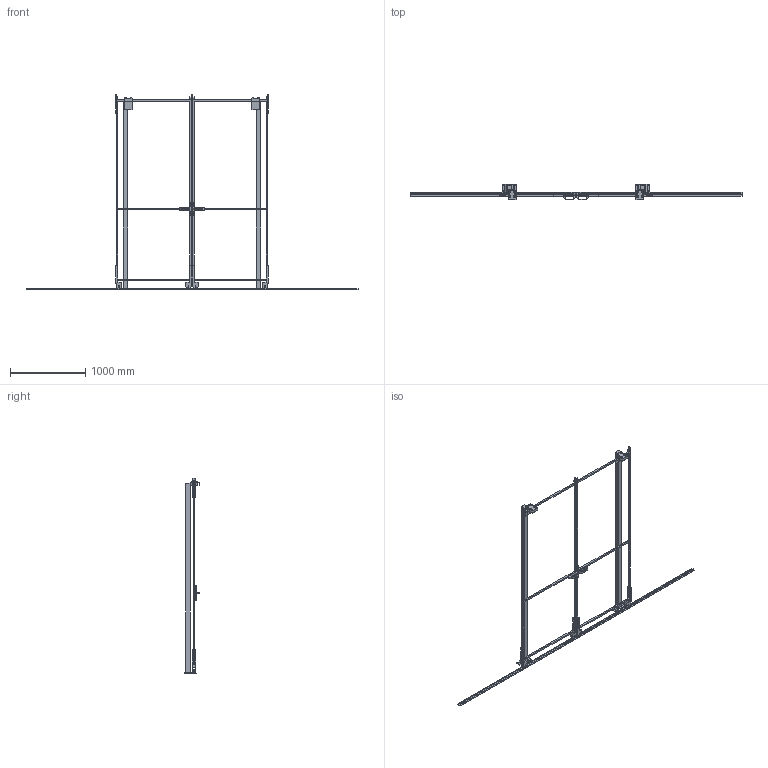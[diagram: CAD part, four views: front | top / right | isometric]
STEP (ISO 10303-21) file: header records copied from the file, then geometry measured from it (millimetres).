
FILE_DESCRIPTION(/* description */ (''),/* implementation_level */ '2;1');
FILE_NAME(/* name */ 'C:\SafeGuarding\ELABORATI\Drawing4_2025-05-14-13-58-56.stp',/* time_stamp */ '2025-05-14T13:58:58+02:00',/* author */ ('admin'),/* organization */ (''),/* preprocessor_version */ 'ST-DEVELOPER v18.1',/* originating_system */ 'AutoCAD Mechanical',/* authorisation */ '');
FILE_SCHEMA (('AUTOMOTIVE_DESIGN { 1 0 10303 214 3 1 1 }'));
Length unit declared in the file: millimetre
Products named in the file (3): Product; VFPA.REPE2010002400; P_VFMA.V260SDU.2520
Assembly tree (4 placements, depth 2):
  Product
    VFPA.REPE2010002400  x2
    P_VFMA.V260SDU.2520  x2
Bounding box: 4400 x 211.4 x 2590 mm (x, y, z)
Volume: 27286517.8 mm3; surface area: 3868071.8 mm2
Topology: 44 solids, 66 shells, 472 faces, 1514 edges, 1388 vertices
Faces by surface type: plane 408, cylinder 56, cone 8
Full cylindrical faces by diameter (mm): 9 x8, 11 x8, 13 x8, 14 x4, 18 x8, 30 x4, 36 x8, 58 x8
Entity records: 14929 total; most frequent: CARTESIAN_POINT 3143, DIRECTION 2250, ORIENTED_EDGE 2176, EDGE_CURVE 1186, LINE 972, VECTOR 972, VERTEX_POINT 872, AXIS2_PLACEMENT_3D 639
